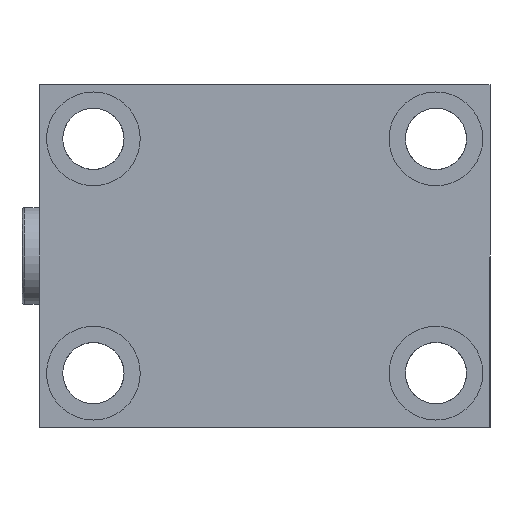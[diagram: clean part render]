
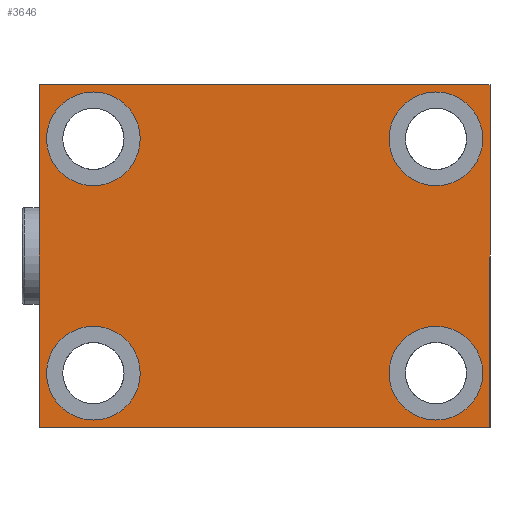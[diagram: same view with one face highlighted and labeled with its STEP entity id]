
A CAD part, front view. The second image highlights one B-rep face of the part: STEP entity #3646.
In plain terms, the highlighted planar face has unit normal (0, -1, 0).
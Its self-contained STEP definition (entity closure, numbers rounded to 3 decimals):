
#28 = FACE_OUTER_BOUND ( 'NONE', #965, .T. ) ;
#42 = DIRECTION ( 'NONE',  ( 0., -1., 0. ) ) ;
#45 = VECTOR ( 'NONE', #2888, 1000. ) ;
#47 = VERTEX_POINT ( 'NONE', #2611 ) ;
#48 = EDGE_LOOP ( 'NONE', ( #3910, #1394 ) ) ;
#71 = CARTESIAN_POINT ( 'NONE',  ( -47.5, 0., -19.5 ) ) ;
#126 = DIRECTION ( 'NONE',  ( 0., 0., 1. ) ) ;
#173 = EDGE_CURVE ( 'NONE', #3965, #1566, #935, .T. ) ;
#195 = ORIENTED_EDGE ( 'NONE', *, *, #740, .F. ) ;
#201 = EDGE_CURVE ( 'NONE', #3654, #3196, #3105, .T. ) ;
#233 = CIRCLE ( 'NONE', #1148, 13. ) ;
#354 = CARTESIAN_POINT ( 'NONE',  ( -62.5, 0., 47.5 ) ) ;
#372 = ORIENTED_EDGE ( 'NONE', *, *, #3782, .F. ) ;
#395 = DIRECTION ( 'NONE',  ( 0., -1., 0. ) ) ;
#404 = DIRECTION ( 'NONE',  ( 0., -1., 0. ) ) ;
#425 = DIRECTION ( 'NONE',  ( 0., 1., 0. ) ) ;
#428 = ORIENTED_EDGE ( 'NONE', *, *, #1205, .F. ) ;
#435 = CIRCLE ( 'NONE', #856, 13. ) ;
#443 = AXIS2_PLACEMENT_3D ( 'NONE', #704, #42, #692 ) ;
#445 = CARTESIAN_POINT ( 'NONE',  ( 47.5, 0., 32.5 ) ) ;
#614 = CIRCLE ( 'NONE', #1346, 13. ) ;
#689 = PLANE ( 'NONE',  #4080 ) ;
#692 = DIRECTION ( 'NONE',  ( 0., 0., -1. ) ) ;
#704 = CARTESIAN_POINT ( 'NONE',  ( 47.5, 0., -32.5 ) ) ;
#721 = DIRECTION ( 'NONE',  ( 0., 0., -1. ) ) ;
#731 = CARTESIAN_POINT ( 'NONE',  ( -62.5, 0., 47.5 ) ) ;
#740 = EDGE_CURVE ( 'NONE', #3998, #1042, #614, .T. ) ;
#741 = CARTESIAN_POINT ( 'NONE',  ( 47.5, 0., -45.5 ) ) ;
#793 = ORIENTED_EDGE ( 'NONE', *, *, #2118, .F. ) ;
#794 = DIRECTION ( 'NONE',  ( 0., -1., 0. ) ) ;
#796 = CIRCLE ( 'NONE', #2648, 13. ) ;
#856 = AXIS2_PLACEMENT_3D ( 'NONE', #2566, #2928, #3246 ) ;
#920 = EDGE_CURVE ( 'NONE', #3558, #1035, #1996, .T. ) ;
#935 = CIRCLE ( 'NONE', #4251, 13. ) ;
#948 = EDGE_CURVE ( 'NONE', #3196, #3558, #3698, .T. ) ;
#962 = CARTESIAN_POINT ( 'NONE',  ( -62.5, 0., -47.5 ) ) ;
#965 = EDGE_LOOP ( 'NONE', ( #4048, #1511, #3230, #2787 ) ) ;
#1035 = VERTEX_POINT ( 'NONE', #3412 ) ;
#1042 = VERTEX_POINT ( 'NONE', #1798 ) ;
#1050 = CARTESIAN_POINT ( 'NONE',  ( 47.5, 0., 32.5 ) ) ;
#1085 = DIRECTION ( 'NONE',  ( 0., -1., 0. ) ) ;
#1148 = AXIS2_PLACEMENT_3D ( 'NONE', #2352, #2083, #3717 ) ;
#1198 = EDGE_CURVE ( 'NONE', #1035, #3654, #3100, .T. ) ;
#1205 = EDGE_CURVE ( 'NONE', #2044, #2290, #3260, .T. ) ;
#1219 = FACE_BOUND ( 'NONE', #48, .T. ) ;
#1267 = FACE_BOUND ( 'NONE', #2722, .T. ) ;
#1338 = VERTEX_POINT ( 'NONE', #741 ) ;
#1346 = AXIS2_PLACEMENT_3D ( 'NONE', #2738, #794, #2077 ) ;
#1394 = ORIENTED_EDGE ( 'NONE', *, *, #3958, .F. ) ;
#1511 = ORIENTED_EDGE ( 'NONE', *, *, #920, .F. ) ;
#1566 = VERTEX_POINT ( 'NONE', #3539 ) ;
#1572 = CARTESIAN_POINT ( 'NONE',  ( -47.5, 0., -45.5 ) ) ;
#1732 = CARTESIAN_POINT ( 'NONE',  ( -62.5, 0., -47.5 ) ) ;
#1798 = CARTESIAN_POINT ( 'NONE',  ( -47.5, 0., 45.5 ) ) ;
#1981 = CARTESIAN_POINT ( 'NONE',  ( 47.5, 0., 19.5 ) ) ;
#1996 = LINE ( 'NONE', #731, #2045 ) ;
#2044 = VERTEX_POINT ( 'NONE', #71 ) ;
#2045 = VECTOR ( 'NONE', #2372, 1000. ) ;
#2054 = DIRECTION ( 'NONE',  ( -1., 0., 0. ) ) ;
#2057 = CARTESIAN_POINT ( 'NONE',  ( 0., 0., 0. ) ) ;
#2077 = DIRECTION ( 'NONE',  ( 0., 0., -1. ) ) ;
#2083 = DIRECTION ( 'NONE',  ( 0., -1., 0. ) ) ;
#2118 = EDGE_CURVE ( 'NONE', #2290, #2044, #3484, .T. ) ;
#2269 = AXIS2_PLACEMENT_3D ( 'NONE', #4204, #3859, #3220 ) ;
#2290 = VERTEX_POINT ( 'NONE', #1572 ) ;
#2352 = CARTESIAN_POINT ( 'NONE',  ( 47.5, 0., -32.5 ) ) ;
#2368 = CARTESIAN_POINT ( 'NONE',  ( -47.5, 0., 19.5 ) ) ;
#2372 = DIRECTION ( 'NONE',  ( 1., 0., 0. ) ) ;
#2412 = CARTESIAN_POINT ( 'NONE',  ( -62.5, 0., -47.5 ) ) ;
#2418 = EDGE_LOOP ( 'NONE', ( #3372, #4159 ) ) ;
#2566 = CARTESIAN_POINT ( 'NONE',  ( -47.5, 0., 32.5 ) ) ;
#2596 = EDGE_CURVE ( 'NONE', #1566, #3965, #796, .T. ) ;
#2600 = EDGE_CURVE ( 'NONE', #1338, #47, #3410, .T. ) ;
#2611 = CARTESIAN_POINT ( 'NONE',  ( 47.5, 0., -19.5 ) ) ;
#2648 = AXIS2_PLACEMENT_3D ( 'NONE', #1050, #395, #721 ) ;
#2694 = DIRECTION ( 'NONE',  ( 0., 0., -1. ) ) ;
#2722 = EDGE_LOOP ( 'NONE', ( #195, #372 ) ) ;
#2738 = CARTESIAN_POINT ( 'NONE',  ( -47.5, 0., 32.5 ) ) ;
#2787 = ORIENTED_EDGE ( 'NONE', *, *, #201, .F. ) ;
#2888 = DIRECTION ( 'NONE',  ( 0., 0., -1. ) ) ;
#2928 = DIRECTION ( 'NONE',  ( 0., -1., 0. ) ) ;
#2974 = DIRECTION ( 'NONE',  ( 0., 0., -1. ) ) ;
#3082 = FACE_BOUND ( 'NONE', #3806, .T. ) ;
#3100 = LINE ( 'NONE', #3573, #45 ) ;
#3105 = LINE ( 'NONE', #1732, #3318 ) ;
#3196 = VERTEX_POINT ( 'NONE', #962 ) ;
#3214 = VECTOR ( 'NONE', #126, 1000. ) ;
#3220 = DIRECTION ( 'NONE',  ( 0., 0., -1. ) ) ;
#3230 = ORIENTED_EDGE ( 'NONE', *, *, #948, .F. ) ;
#3246 = DIRECTION ( 'NONE',  ( 0., 0., -1. ) ) ;
#3260 = CIRCLE ( 'NONE', #2269, 13. ) ;
#3277 = CARTESIAN_POINT ( 'NONE',  ( 62.5, 0., -47.5 ) ) ;
#3318 = VECTOR ( 'NONE', #2054, 1000. ) ;
#3355 = DIRECTION ( 'NONE',  ( 0., 0., 1. ) ) ;
#3372 = ORIENTED_EDGE ( 'NONE', *, *, #173, .F. ) ;
#3410 = CIRCLE ( 'NONE', #443, 13. ) ;
#3412 = CARTESIAN_POINT ( 'NONE',  ( 62.5, 0., 47.5 ) ) ;
#3484 = CIRCLE ( 'NONE', #3788, 13. ) ;
#3539 = CARTESIAN_POINT ( 'NONE',  ( 47.5, 0., 45.5 ) ) ;
#3558 = VERTEX_POINT ( 'NONE', #354 ) ;
#3573 = CARTESIAN_POINT ( 'NONE',  ( 62.5, 0., -47.5 ) ) ;
#3646 = ADVANCED_FACE ( 'NONE', ( #3082, #1219, #3732, #1267, #28 ), #689, .F. ) ;
#3654 = VERTEX_POINT ( 'NONE', #3277 ) ;
#3698 = LINE ( 'NONE', #2412, #3214 ) ;
#3717 = DIRECTION ( 'NONE',  ( 0., 0., -1. ) ) ;
#3732 = FACE_BOUND ( 'NONE', #2418, .T. ) ;
#3782 = EDGE_CURVE ( 'NONE', #1042, #3998, #435, .T. ) ;
#3788 = AXIS2_PLACEMENT_3D ( 'NONE', #4015, #1085, #2974 ) ;
#3806 = EDGE_LOOP ( 'NONE', ( #793, #428 ) ) ;
#3859 = DIRECTION ( 'NONE',  ( 0., -1., 0. ) ) ;
#3910 = ORIENTED_EDGE ( 'NONE', *, *, #2600, .F. ) ;
#3958 = EDGE_CURVE ( 'NONE', #47, #1338, #233, .T. ) ;
#3965 = VERTEX_POINT ( 'NONE', #1981 ) ;
#3998 = VERTEX_POINT ( 'NONE', #2368 ) ;
#4015 = CARTESIAN_POINT ( 'NONE',  ( -47.5, 0., -32.5 ) ) ;
#4048 = ORIENTED_EDGE ( 'NONE', *, *, #1198, .F. ) ;
#4080 = AXIS2_PLACEMENT_3D ( 'NONE', #2057, #425, #3355 ) ;
#4159 = ORIENTED_EDGE ( 'NONE', *, *, #2596, .F. ) ;
#4204 = CARTESIAN_POINT ( 'NONE',  ( -47.5, 0., -32.5 ) ) ;
#4251 = AXIS2_PLACEMENT_3D ( 'NONE', #445, #404, #2694 ) ;
